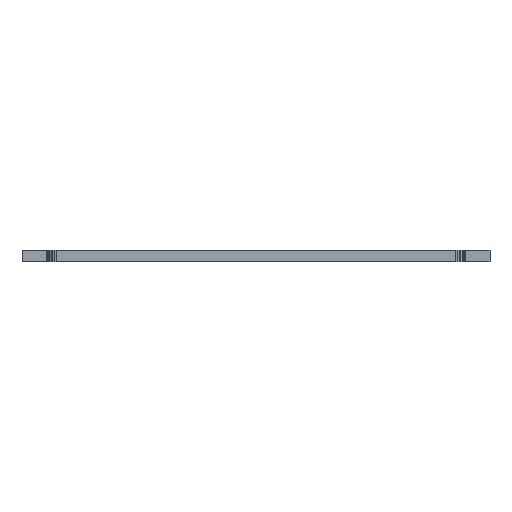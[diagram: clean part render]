
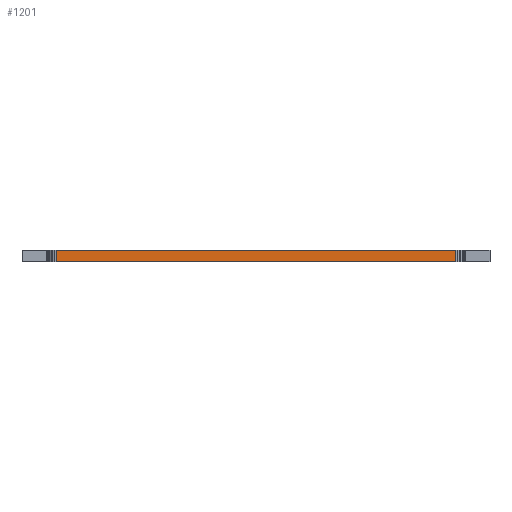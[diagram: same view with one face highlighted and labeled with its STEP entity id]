
A CAD part, left-side view. The second image highlights one B-rep face of the part: STEP entity #1201.
In plain terms, the highlighted planar face has unit normal (-1, 0, 0).
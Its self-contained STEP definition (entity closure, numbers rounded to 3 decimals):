
#72 = PLANE('',#73);
#73 = AXIS2_PLACEMENT_3D('',#74,#75,#76);
#74 = CARTESIAN_POINT('',(0.447,0.,0.4));
#75 = DIRECTION('',(-0.,-0.,-1.));
#76 = DIRECTION('',(-1.,0.,0.));
#126 = PLANE('',#127);
#127 = AXIS2_PLACEMENT_3D('',#128,#129,#130);
#128 = CARTESIAN_POINT('',(0.447,0.,0.));
#129 = DIRECTION('',(-0.,-0.,-1.));
#130 = DIRECTION('',(-1.,0.,0.));
#1093 = PLANE('',#1094);
#1094 = AXIS2_PLACEMENT_3D('',#1095,#1096,#1097);
#1095 = CARTESIAN_POINT('',(-7.293,-7.318,0.));
#1096 = DIRECTION('',(-0.995,-0.098,0.));
#1097 = DIRECTION('',(-0.098,0.995,0.));
#1131 = VERTEX_POINT('',#1132);
#1132 = CARTESIAN_POINT('',(-7.3,-7.25,0.4));
#1153 = EDGE_CURVE('',#1154,#1131,#1156,.T.);
#1154 = VERTEX_POINT('',#1155);
#1155 = CARTESIAN_POINT('',(-7.3,-7.25,0.));
#1156 = SURFACE_CURVE('',#1157,(#1161,#1168),.PCURVE_S1.);
#1157 = LINE('',#1158,#1159);
#1158 = CARTESIAN_POINT('',(-7.3,-7.25,0.));
#1159 = VECTOR('',#1160,1.);
#1160 = DIRECTION('',(0.,0.,1.));
#1161 = PCURVE('',#1093,#1162);
#1162 = DEFINITIONAL_REPRESENTATION('',(#1163),#1167);
#1163 = LINE('',#1164,#1165);
#1164 = CARTESIAN_POINT('',(0.069,0.));
#1165 = VECTOR('',#1166,1.);
#1166 = DIRECTION('',(0.,-1.));
#1167 = ( GEOMETRIC_REPRESENTATION_CONTEXT(2) 
PARAMETRIC_REPRESENTATION_CONTEXT() REPRESENTATION_CONTEXT('2D SPACE',''
  ) );
#1168 = PCURVE('',#1169,#1174);
#1169 = PLANE('',#1170);
#1170 = AXIS2_PLACEMENT_3D('',#1171,#1172,#1173);
#1171 = CARTESIAN_POINT('',(-7.3,-7.25,0.));
#1172 = DIRECTION('',(-1.,0.,0.));
#1173 = DIRECTION('',(0.,1.,0.));
#1174 = DEFINITIONAL_REPRESENTATION('',(#1175),#1179);
#1175 = LINE('',#1176,#1177);
#1176 = CARTESIAN_POINT('',(0.,0.));
#1177 = VECTOR('',#1178,1.);
#1178 = DIRECTION('',(0.,-1.));
#1179 = ( GEOMETRIC_REPRESENTATION_CONTEXT(2) 
PARAMETRIC_REPRESENTATION_CONTEXT() REPRESENTATION_CONTEXT('2D SPACE',''
  ) );
#1201 = ADVANCED_FACE('',(#1202),#1169,.T.);
#1202 = FACE_BOUND('',#1203,.T.);
#1203 = EDGE_LOOP('',(#1204,#1205,#1228,#1256));
#1204 = ORIENTED_EDGE('',*,*,#1153,.T.);
#1205 = ORIENTED_EDGE('',*,*,#1206,.T.);
#1206 = EDGE_CURVE('',#1131,#1207,#1209,.T.);
#1207 = VERTEX_POINT('',#1208);
#1208 = CARTESIAN_POINT('',(-7.3,7.25,0.4));
#1209 = SURFACE_CURVE('',#1210,(#1214,#1221),.PCURVE_S1.);
#1210 = LINE('',#1211,#1212);
#1211 = CARTESIAN_POINT('',(-7.3,-7.25,0.4));
#1212 = VECTOR('',#1213,1.);
#1213 = DIRECTION('',(0.,1.,0.));
#1214 = PCURVE('',#1169,#1215);
#1215 = DEFINITIONAL_REPRESENTATION('',(#1216),#1220);
#1216 = LINE('',#1217,#1218);
#1217 = CARTESIAN_POINT('',(0.,-0.4));
#1218 = VECTOR('',#1219,1.);
#1219 = DIRECTION('',(1.,0.));
#1220 = ( GEOMETRIC_REPRESENTATION_CONTEXT(2) 
PARAMETRIC_REPRESENTATION_CONTEXT() REPRESENTATION_CONTEXT('2D SPACE',''
  ) );
#1221 = PCURVE('',#72,#1222);
#1222 = DEFINITIONAL_REPRESENTATION('',(#1223),#1227);
#1223 = LINE('',#1224,#1225);
#1224 = CARTESIAN_POINT('',(7.747,-7.25));
#1225 = VECTOR('',#1226,1.);
#1226 = DIRECTION('',(0.,1.));
#1227 = ( GEOMETRIC_REPRESENTATION_CONTEXT(2) 
PARAMETRIC_REPRESENTATION_CONTEXT() REPRESENTATION_CONTEXT('2D SPACE',''
  ) );
#1228 = ORIENTED_EDGE('',*,*,#1229,.F.);
#1229 = EDGE_CURVE('',#1230,#1207,#1232,.T.);
#1230 = VERTEX_POINT('',#1231);
#1231 = CARTESIAN_POINT('',(-7.3,7.25,0.));
#1232 = SURFACE_CURVE('',#1233,(#1237,#1244),.PCURVE_S1.);
#1233 = LINE('',#1234,#1235);
#1234 = CARTESIAN_POINT('',(-7.3,7.25,0.));
#1235 = VECTOR('',#1236,1.);
#1236 = DIRECTION('',(0.,0.,1.));
#1237 = PCURVE('',#1169,#1238);
#1238 = DEFINITIONAL_REPRESENTATION('',(#1239),#1243);
#1239 = LINE('',#1240,#1241);
#1240 = CARTESIAN_POINT('',(14.5,0.));
#1241 = VECTOR('',#1242,1.);
#1242 = DIRECTION('',(0.,-1.));
#1243 = ( GEOMETRIC_REPRESENTATION_CONTEXT(2) 
PARAMETRIC_REPRESENTATION_CONTEXT() REPRESENTATION_CONTEXT('2D SPACE',''
  ) );
#1244 = PCURVE('',#1245,#1250);
#1245 = PLANE('',#1246);
#1246 = AXIS2_PLACEMENT_3D('',#1247,#1248,#1249);
#1247 = CARTESIAN_POINT('',(-7.3,7.25,0.));
#1248 = DIRECTION('',(-0.995,0.098,0.));
#1249 = DIRECTION('',(0.098,0.995,0.));
#1250 = DEFINITIONAL_REPRESENTATION('',(#1251),#1255);
#1251 = LINE('',#1252,#1253);
#1252 = CARTESIAN_POINT('',(0.,0.));
#1253 = VECTOR('',#1254,1.);
#1254 = DIRECTION('',(0.,-1.));
#1255 = ( GEOMETRIC_REPRESENTATION_CONTEXT(2) 
PARAMETRIC_REPRESENTATION_CONTEXT() REPRESENTATION_CONTEXT('2D SPACE',''
  ) );
#1256 = ORIENTED_EDGE('',*,*,#1257,.F.);
#1257 = EDGE_CURVE('',#1154,#1230,#1258,.T.);
#1258 = SURFACE_CURVE('',#1259,(#1263,#1270),.PCURVE_S1.);
#1259 = LINE('',#1260,#1261);
#1260 = CARTESIAN_POINT('',(-7.3,-7.25,0.));
#1261 = VECTOR('',#1262,1.);
#1262 = DIRECTION('',(0.,1.,0.));
#1263 = PCURVE('',#1169,#1264);
#1264 = DEFINITIONAL_REPRESENTATION('',(#1265),#1269);
#1265 = LINE('',#1266,#1267);
#1266 = CARTESIAN_POINT('',(0.,0.));
#1267 = VECTOR('',#1268,1.);
#1268 = DIRECTION('',(1.,0.));
#1269 = ( GEOMETRIC_REPRESENTATION_CONTEXT(2) 
PARAMETRIC_REPRESENTATION_CONTEXT() REPRESENTATION_CONTEXT('2D SPACE',''
  ) );
#1270 = PCURVE('',#126,#1271);
#1271 = DEFINITIONAL_REPRESENTATION('',(#1272),#1276);
#1272 = LINE('',#1273,#1274);
#1273 = CARTESIAN_POINT('',(7.747,-7.25));
#1274 = VECTOR('',#1275,1.);
#1275 = DIRECTION('',(0.,1.));
#1276 = ( GEOMETRIC_REPRESENTATION_CONTEXT(2) 
PARAMETRIC_REPRESENTATION_CONTEXT() REPRESENTATION_CONTEXT('2D SPACE',''
  ) );
